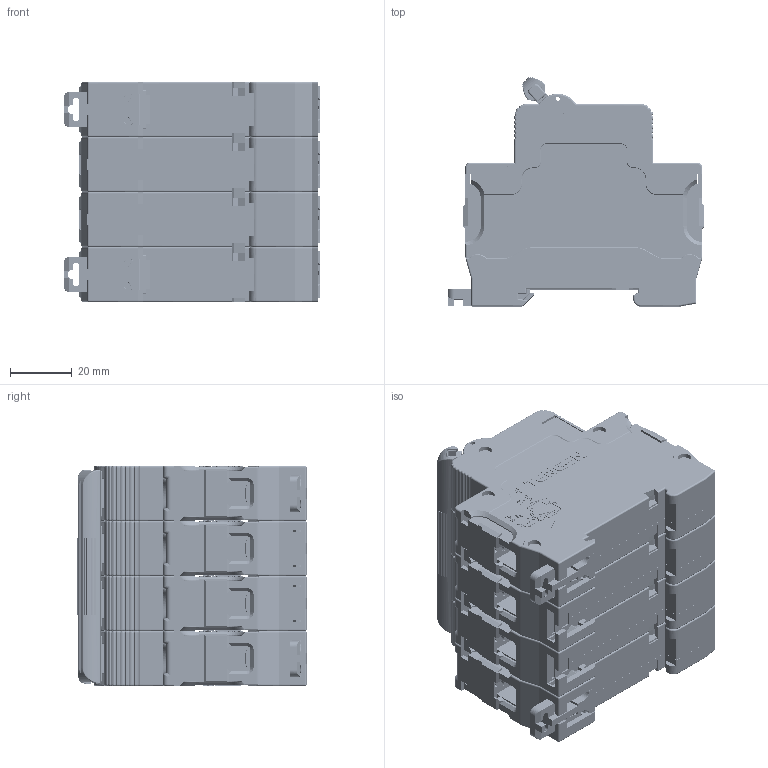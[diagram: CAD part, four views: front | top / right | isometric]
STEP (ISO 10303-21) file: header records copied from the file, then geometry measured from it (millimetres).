
FILE_DESCRIPTION((''),'2;1');
FILE_NAME('4P','2021-03-25T',('chenzhiqiang'),(''),'PRO/ENGINEER BY PARAMETRIC TECHNOLOGY CORPORATION, 2017170','PRO/ENGINEER BY PARAMETRIC TECHNOLOGY CORPORATION, 2017170','');
FILE_SCHEMA(('CONFIG_CONTROL_DESIGN'));
Products named in the file (1): 4P
Bounding box: 83.15 x 74.22 x 71.2 mm (x, y, z)
Volume: 268605.4 mm3; surface area: 83014 mm2
Topology: 1 solids, 10 shells, 11843 faces, 31932 edges, 20349 vertices
Faces by surface type: plane 8125, cylinder 2011, torus 644, bspline 554, extrusion 243, cone 226, sphere 40
Entity records: 403734 total; most frequent: CARTESIAN_POINT 111459, ORIENTED_EDGE 63864, DIRECTION 55815, EDGE_CURVE 31932, VECTOR 24573, LINE 24330, VERTEX_POINT 20349, AXIS2_PLACEMENT_3D 15621
